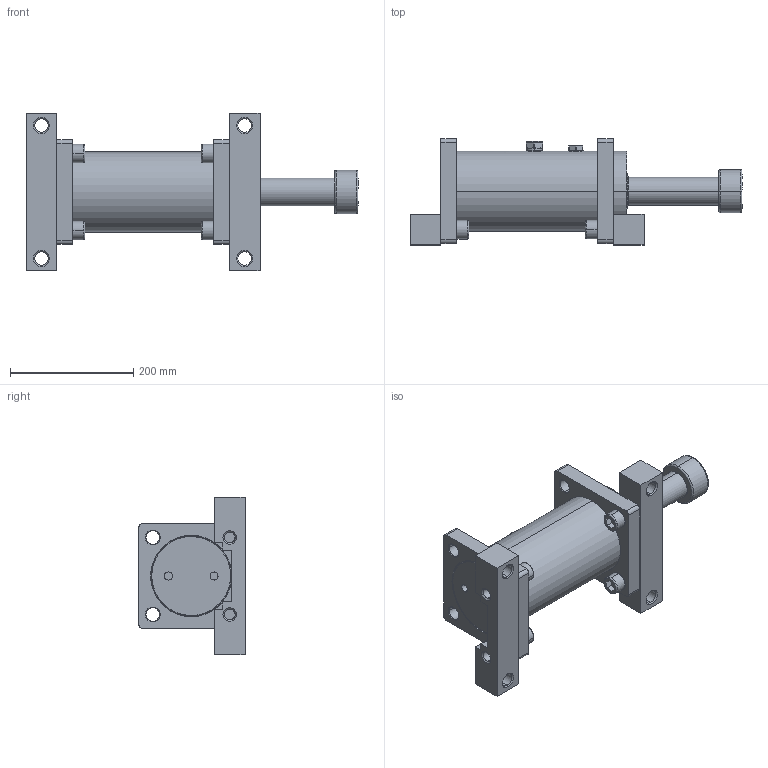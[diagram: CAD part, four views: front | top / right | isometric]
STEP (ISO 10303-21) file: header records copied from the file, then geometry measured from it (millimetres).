
FILE_DESCRIPTION (( 'STEP AP214' ), '1' );
FILE_NAME ('LDD3.0X5.STEP', '2019-01-16T06:54:57', ( 'user' ), ( 'Microsoft' ), 'SwSTEP 2.0', 'SolidWorks 2016', '' );
FILE_SCHEMA (( 'AUTOMOTIVE_DESIGN' ));
Length unit declared in the file: inch
Products named in the file (1): LDD3.0X5
Bounding box: 539 x 172.5 x 255 mm (x, y, z)
Surface area: 451191.5 mm2 (no closed solid volume)
Topology: 0 solids, 21 shells, 288 faces, 756 edges, 499 vertices
Faces by surface type: plane 109, cylinder 97, cone 52, bspline 30
Entity records: 15184 total; most frequent: CARTESIAN_POINT 8110, DIRECTION 1485, ORIENTED_EDGE 1383, EDGE_CURVE 756, AXIS2_PLACEMENT_3D 566, VERTEX_POINT 499, VECTOR 353, LINE 353
